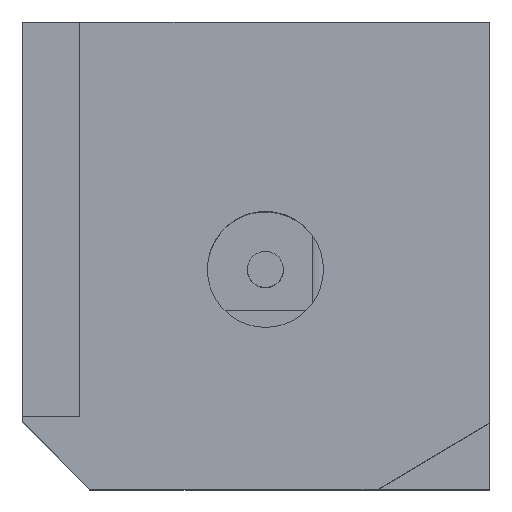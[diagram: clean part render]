
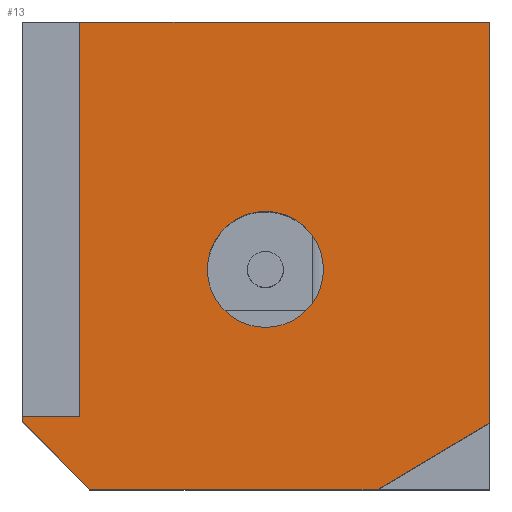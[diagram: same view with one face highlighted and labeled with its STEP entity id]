
A CAD part, top view. The second image highlights one B-rep face of the part: STEP entity #13.
In plain terms, the highlighted planar face has unit normal (0, 0, 1).
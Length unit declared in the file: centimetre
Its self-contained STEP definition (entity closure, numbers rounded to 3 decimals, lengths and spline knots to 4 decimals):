
#13 = ADVANCED_FACE ( 'NONE', ( #347, #1453 ), #110, .T. ) ;
#39 = VECTOR ( 'NONE', #618, 100. ) ;
#69 = VERTEX_POINT ( 'NONE', #1099 ) ;
#98 = VECTOR ( 'NONE', #222, 100. ) ;
#110 = PLANE ( 'NONE',  #349 ) ;
#113 = CARTESIAN_POINT ( 'NONE',  ( 0., 155.8622, 1000. ) ) ;
#133 = CARTESIAN_POINT ( 'NONE',  ( 72.1427, 72.1427, 1000. ) ) ;
#164 = LINE ( 'NONE', #1280, #1141 ) ;
#165 = CIRCLE ( 'NONE', #1328, 124.2499 ) ;
#196 = EDGE_CURVE ( 'NONE', #949, #69, #164, .T. ) ;
#199 = CARTESIAN_POINT ( 'NONE',  ( 0., 155.8622, 1000. ) ) ;
#206 = EDGE_CURVE ( 'NONE', #1160, #593, #1245, .T. ) ;
#221 = VERTEX_POINT ( 'NONE', #764 ) ;
#222 = DIRECTION ( 'NONE',  ( 0., -1., 0. ) ) ;
#235 = CARTESIAN_POINT ( 'NONE',  ( 0., 1000., 1000. ) ) ;
#241 = VECTOR ( 'NONE', #1592, 100. ) ;
#245 = CARTESIAN_POINT ( 'NONE',  ( 761.1613, 0., 1000. ) ) ;
#246 = VECTOR ( 'NONE', #1587, 100. ) ;
#312 = CARTESIAN_POINT ( 'NONE',  ( 395.8721, 470.4788, 1000. ) ) ;
#314 = VERTEX_POINT ( 'NONE', #403 ) ;
#347 = FACE_OUTER_BOUND ( 'NONE', #1304, .T. ) ;
#348 = VECTOR ( 'NONE', #1458, 100. ) ;
#349 = AXIS2_PLACEMENT_3D ( 'NONE', #1086, #1469, #971 ) ;
#401 = CARTESIAN_POINT ( 'NONE',  ( 1000., 1000., 1000. ) ) ;
#403 = CARTESIAN_POINT ( 'NONE',  ( 1000., 1000., 1000. ) ) ;
#494 = VECTOR ( 'NONE', #976, 100. ) ;
#553 = ORIENTED_EDGE ( 'NONE', *, *, #1302, .T. ) ;
#555 = ORIENTED_EDGE ( 'NONE', *, *, #1448, .T. ) ;
#566 = ORIENTED_EDGE ( 'NONE', *, *, #1267, .T. ) ;
#593 = VERTEX_POINT ( 'NONE', #312 ) ;
#596 = CARTESIAN_POINT ( 'NONE',  ( 0., 1000., 1000. ) ) ;
#618 = DIRECTION ( 'NONE',  ( 0.707, -0.707, 0. ) ) ;
#673 = ORIENTED_EDGE ( 'NONE', *, *, #1259, .F. ) ;
#695 = ORIENTED_EDGE ( 'NONE', *, *, #206, .F. ) ;
#717 = LINE ( 'NONE', #1449, #241 ) ;
#728 = DIRECTION ( 'NONE',  ( 1., 0., 0. ) ) ;
#737 = EDGE_CURVE ( 'NONE', #1255, #1310, #1344, .T. ) ;
#764 = CARTESIAN_POINT ( 'NONE',  ( 1000., 141.903, 1000. ) ) ;
#770 = CARTESIAN_POINT ( 'NONE',  ( 144.2855, 0., 1000. ) ) ;
#794 = ORIENTED_EDGE ( 'NONE', *, *, #196, .F. ) ;
#870 = EDGE_CURVE ( 'NONE', #1255, #949, #1203, .T. ) ;
#887 = DIRECTION ( 'NONE',  ( 0., 1., 0. ) ) ;
#895 = DIRECTION ( 'NONE',  ( 1., 0., 0. ) ) ;
#929 = CARTESIAN_POINT ( 'NONE',  ( 122.8988, 155.8622, 1000. ) ) ;
#949 = VERTEX_POINT ( 'NONE', #929 ) ;
#952 = LINE ( 'NONE', #1345, #494 ) ;
#955 = DIRECTION ( 'NONE',  ( 0., 0., 1. ) ) ;
#971 = DIRECTION ( 'NONE',  ( 1., 0., 0. ) ) ;
#976 = DIRECTION ( 'NONE',  ( -0.86, -0.511, 0. ) ) ;
#1048 = ORIENTED_EDGE ( 'NONE', *, *, #737, .T. ) ;
#1057 = ORIENTED_EDGE ( 'NONE', *, *, #870, .F. ) ;
#1086 = CARTESIAN_POINT ( 'NONE',  ( 0., 0., 1000. ) ) ;
#1099 = CARTESIAN_POINT ( 'NONE',  ( 122.8988, 1000., 1000. ) ) ;
#1131 = CARTESIAN_POINT ( 'NONE',  ( 644.372, 470.4788, 1000. ) ) ;
#1141 = VECTOR ( 'NONE', #887, 100. ) ;
#1160 = VERTEX_POINT ( 'NONE', #1131 ) ;
#1183 = EDGE_LOOP ( 'NONE', ( #695, #1530 ) ) ;
#1203 = LINE ( 'NONE', #199, #246 ) ;
#1235 = LINE ( 'NONE', #133, #39 ) ;
#1245 = CIRCLE ( 'NONE', #1563, 124.2499 ) ;
#1255 = VERTEX_POINT ( 'NONE', #113 ) ;
#1259 = EDGE_CURVE ( 'NONE', #221, #1456, #952, .T. ) ;
#1267 = EDGE_CURVE ( 'NONE', #314, #69, #1338, .T. ) ;
#1280 = CARTESIAN_POINT ( 'NONE',  ( 122.8988, 155.8622, 1000. ) ) ;
#1302 = EDGE_CURVE ( 'NONE', #1558, #1456, #717, .T. ) ;
#1304 = EDGE_LOOP ( 'NONE', ( #673, #555, #566, #794, #1057, #1048, #1381, #553 ) ) ;
#1310 = VERTEX_POINT ( 'NONE', #1584 ) ;
#1328 = AXIS2_PLACEMENT_3D ( 'NONE', #1355, #955, #728 ) ;
#1338 = LINE ( 'NONE', #596, #348 ) ;
#1344 = LINE ( 'NONE', #235, #98 ) ;
#1345 = CARTESIAN_POINT ( 'NONE',  ( 1000., 141.903, 1000. ) ) ;
#1355 = CARTESIAN_POINT ( 'NONE',  ( 520.122, 470.4788, 1000. ) ) ;
#1368 = DIRECTION ( 'NONE',  ( 0., 1., 0. ) ) ;
#1375 = VECTOR ( 'NONE', #1368, 100. ) ;
#1381 = ORIENTED_EDGE ( 'NONE', *, *, #1478, .T. ) ;
#1387 = DIRECTION ( 'NONE',  ( 0., 0., 1. ) ) ;
#1448 = EDGE_CURVE ( 'NONE', #221, #314, #1501, .T. ) ;
#1449 = CARTESIAN_POINT ( 'NONE',  ( 0., 0., 1000. ) ) ;
#1453 = FACE_BOUND ( 'NONE', #1183, .T. ) ;
#1456 = VERTEX_POINT ( 'NONE', #245 ) ;
#1458 = DIRECTION ( 'NONE',  ( -1., 0., 0. ) ) ;
#1469 = DIRECTION ( 'NONE',  ( 0., 0., 1. ) ) ;
#1478 = EDGE_CURVE ( 'NONE', #1310, #1558, #1235, .T. ) ;
#1501 = LINE ( 'NONE', #401, #1375 ) ;
#1517 = CARTESIAN_POINT ( 'NONE',  ( 520.122, 470.4788, 1000. ) ) ;
#1530 = ORIENTED_EDGE ( 'NONE', *, *, #1577, .F. ) ;
#1558 = VERTEX_POINT ( 'NONE', #770 ) ;
#1563 = AXIS2_PLACEMENT_3D ( 'NONE', #1517, #1387, #895 ) ;
#1577 = EDGE_CURVE ( 'NONE', #593, #1160, #165, .T. ) ;
#1584 = CARTESIAN_POINT ( 'NONE',  ( 0., 144.2855, 1000. ) ) ;
#1587 = DIRECTION ( 'NONE',  ( 1., 0., 0. ) ) ;
#1592 = DIRECTION ( 'NONE',  ( 1., 0., 0. ) ) ;
